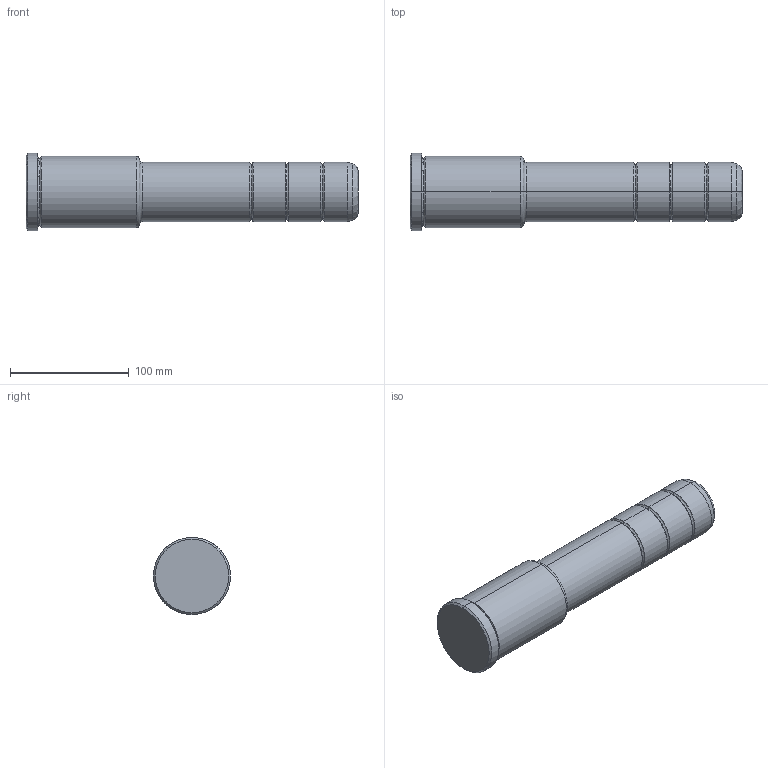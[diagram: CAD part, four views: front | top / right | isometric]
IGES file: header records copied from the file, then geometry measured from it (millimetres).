
Start section: START RECORD GO HERE.
Global section: file name: 351-50X96X280.igs; native system: DASSAULT SYSTEMES CATIA V5 R20 - www.3ds.com; preprocessor: CATIA Version 5 Release 20 ; author: Utente; organization: NB04-ASUS; date: 20211108.195438; units: millimetre
Bounding box: 280 x 65 x 65 mm (x, y, z)
Surface area: 53662.8 mm2 (no closed solid volume)
Topology: 0 solids, 0 shells, 41 faces, 228 edges, 228 vertices
Faces by surface type: revolution 38, plane 3
